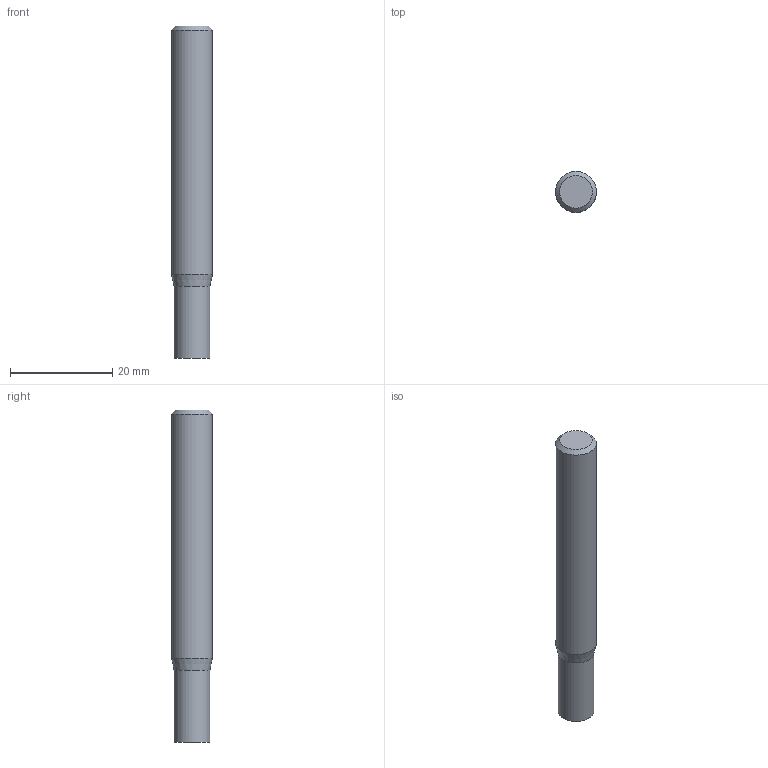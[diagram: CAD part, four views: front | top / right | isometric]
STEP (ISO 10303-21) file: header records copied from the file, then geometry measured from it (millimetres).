
FILE_DESCRIPTION((''),'2;1');
FILE_NAME('C:\Users\nsx150\AppData\Local\Temp\Mastercam 2021\E36A1X9CCL\TEMP.step','2023-04-21T15:13:21',(''),(''),'STEP Write','Mastercam 2021 ... CNC Software, Inc.','');
FILE_SCHEMA(('AUTOMOTIVE_DESIGN'));
Length unit declared in the file: millimetre
Products named in the file (1): None
Bounding box: 8 x 8 x 65 mm (x, y, z)
Volume: 3080.7 mm3; surface area: 1740.3 mm2
Topology: 2 solids, 2 shells, 8 faces, 10 edges, 6 vertices
Faces by surface type: plane 4, cylinder 2, cone 2
Full cylindrical faces by diameter (mm): 7 x1, 8 x1
Entity records: 190 total; most frequent: DIRECTION 32, CARTESIAN_POINT 22, AXIS2_PLACEMENT_3D 16, ORIENTED_EDGE 12, EDGE_LOOP 12, STYLED_ITEM 11, ADVANCED_FACE 8, VERTEX_POINT 6
